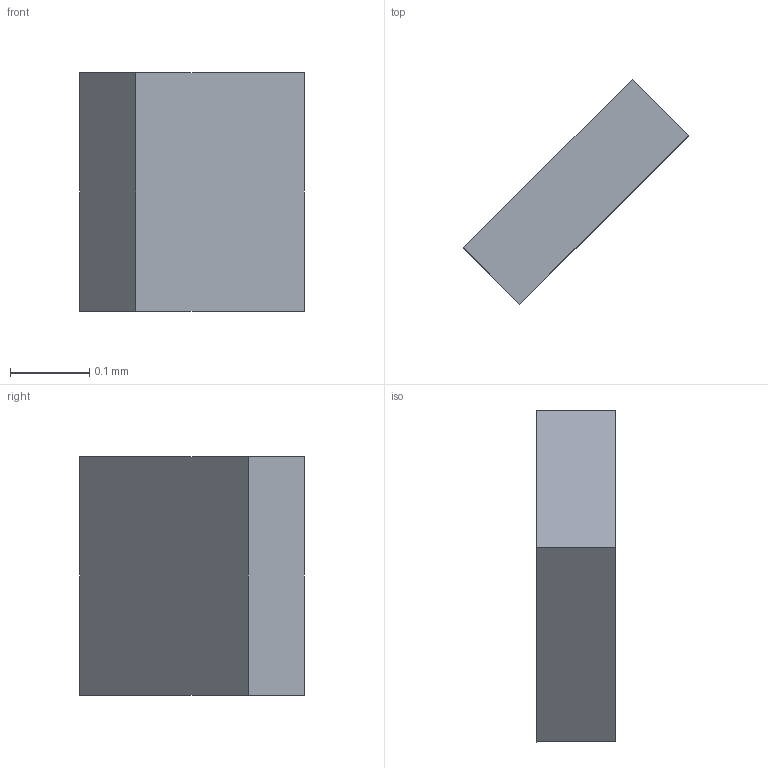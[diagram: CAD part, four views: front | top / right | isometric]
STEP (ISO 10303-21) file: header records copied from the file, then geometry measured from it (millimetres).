
FILE_DESCRIPTION(/* description */ ('STEP AP242 Edition 2','CAx-IF Rec.Pracs.---Representation and Presentation of Product Manufacturing Information (PMI)---4.0---2014-10-13','CAx-IF Rec.Pracs.---3D Tessellated Geometry---0.4---2014-09-14','2;1','CAx-IF Rec.Pracs.---User Defined Attributes---1.5---2016-08-15'),/* implementation_level */ '2;1');
FILE_NAME(/* name */ 'HIRO_Assembly - SMD Capacitor, Configurable, Raspberry Pi Pico-R3_C6 (1)',/* time_stamp */ '2026-11-04T05:23:28Z',/* author */ (''),/* organization */ (''),/* preprocessor_version */ 'ST-DEVELOPER v20',/* originating_system */ 'ONSHAPE BY PTC INC, 1.223',/* authorisation */ ' ');
FILE_SCHEMA (('AP242_MANAGED_MODEL_BASED_3D_ENGINEERING_MIM_LF { 1 0 10303 442 3 1 4 }'));
Length unit declared in the file: metre
Products named in the file (1): SMD Capacitor, Configurable, Raspberry Pi Pico-R3_C6
Bounding box: 0.28 x 0.28 x 0.3 mm (x, y, z)
Volume: 0 mm3; surface area: 0.3 mm2
Topology: 1 solids, 1 shells, 6 faces, 12 edges, 8 vertices
Faces by surface type: plane 6
Entity records: 178 total; most frequent: CARTESIAN_POINT 27, DIRECTION 26, ORIENTED_EDGE 24, EDGE_CURVE 12, LINE 12, VECTOR 12, VERTEX_POINT 8, AXIS2_PLACEMENT_3D 7
